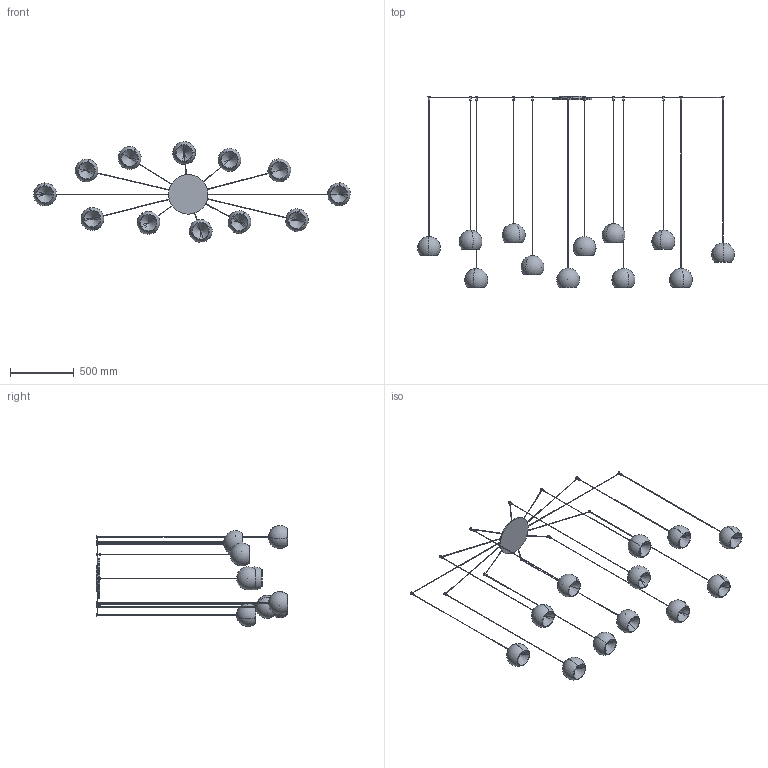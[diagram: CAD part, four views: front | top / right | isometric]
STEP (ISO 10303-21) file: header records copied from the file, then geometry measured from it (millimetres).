
FILE_DESCRIPTION (( 'STEP AP203' ), '1' );
FILE_NAME ('CHRA1-00-CHERRY_12 sospensione.STEP', '2025-05-06T06:16:15', ( '' ), ( '' ), 'SwSTEP 2.0', 'SolidWorks 2022', '' );
FILE_SCHEMA (( 'CONFIG_CONTROL_DESIGN' ));
Length unit declared in the file: millimetre
Products named in the file (8): CHERRY_Lampada singola_Cherry 180 | H=1600; CHERRY_Rosone_Cherry 12 (x 3400)<A macchina>; CHERRY_Lampada singola_Cherry 180 | H=1500; CHERRY_Lampada singola_Cherry 180 | H=1750; CHRA1-00-CHERRY_12 sospensione; CHERRY_Lampada singola_Cherry 180 | H=1850; CHERRY_Lampada singola_Cherry 180 | H=1800; CHERRY_Lampada singola_Cherry 180 | H=1700
Assembly tree (13 placements, depth 2):
  CHRA1-00-CHERRY_12 sospensione
    CHERRY_Rosone_Cherry 12 (x 3400)<A macchina>
    CHERRY_Lampada singola_Cherry 180 | H=1750  x2
    CHERRY_Lampada singola_Cherry 180 | H=1800  x2
    CHERRY_Lampada singola_Cherry 180 | H=1850  x2
    CHERRY_Lampada singola_Cherry 180 | H=1500  x4
    CHERRY_Lampada singola_Cherry 180 | H=1700
    CHERRY_Lampada singola_Cherry 180 | H=1600
Bounding box: 2487 x 1500 x 790.04 mm (x, y, z)
Volume: 3750901.9 mm3; surface area: 2968987.2 mm2
Topology: 61 solids, 61 shells, 449 faces, 1070 edges, 672 vertices
Faces by surface type: cylinder 206, plane 147, sphere 48, cone 48
Entity records: 8038 total; most frequent: CARTESIAN_POINT 1697, DIRECTION 1226, ORIENTED_EDGE 1012, AXIS2_PLACEMENT_3D 545, EDGE_CURVE 506, VERTEX_POINT 336, EDGE_LOOP 282, CIRCLE 272
